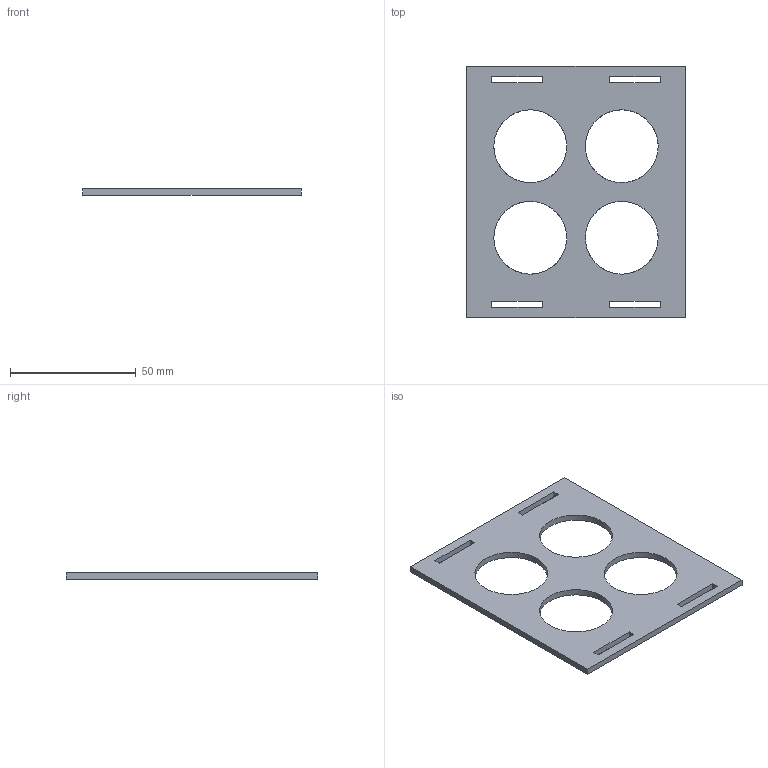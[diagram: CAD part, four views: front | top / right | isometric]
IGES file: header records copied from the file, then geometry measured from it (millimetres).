
Global section: file name: 5.Superior; native system: Autodesk Inventor 2022; preprocessor: unknown; author: pined; date: 20220531.022358; units: millimetre
Bounding box: 87 x 100 x 2.5 mm (x, y, z)
Volume: 14636.8 mm3; surface area: 14013.7 mm2
Topology: 1 solids, 1 shells, 26 faces, 76 edges, 52 vertices
Faces by surface type: bspline 26
